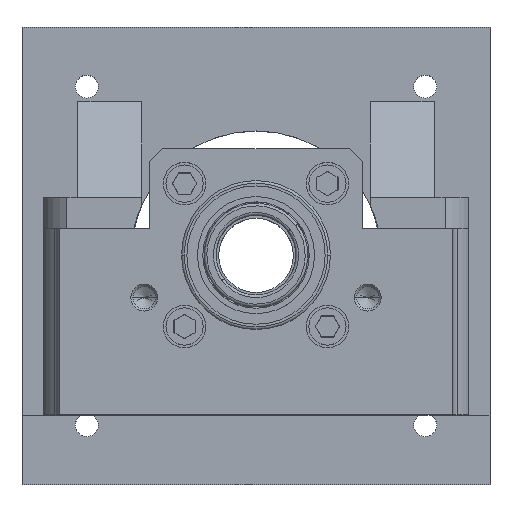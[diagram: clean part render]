
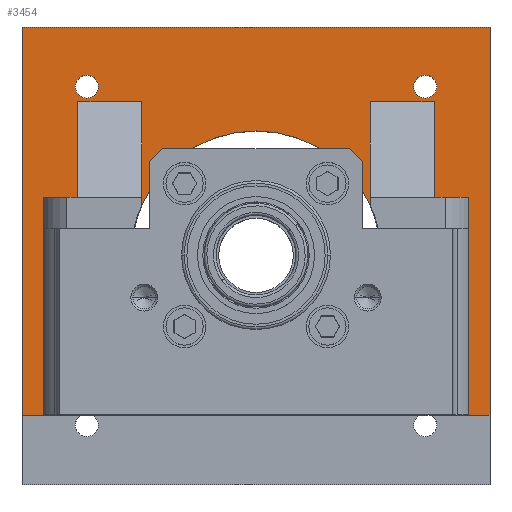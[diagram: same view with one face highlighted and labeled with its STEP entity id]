
A CAD part, top view. The second image highlights one B-rep face of the part: STEP entity #3454.
In plain terms, the highlighted planar face has unit normal (0, 0, 1).
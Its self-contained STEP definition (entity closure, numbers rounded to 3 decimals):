
#91 = VERTEX_POINT ( 'NONE', #8790 ) ;
#135 = ORIENTED_EDGE ( 'NONE', *, *, #3658, .F. ) ;
#561 = DIRECTION ( 'NONE',  ( 0., 0., 1. ) ) ;
#610 = LINE ( 'NONE', #3612, #6043 ) ;
#921 = ORIENTED_EDGE ( 'NONE', *, *, #6507, .F. ) ;
#956 = VECTOR ( 'NONE', #4083, 1000. ) ;
#962 = VECTOR ( 'NONE', #13469, 1000. ) ;
#1132 = VECTOR ( 'NONE', #4212, 1000. ) ;
#1265 = CARTESIAN_POINT ( 'NONE',  ( 44., -30., -90. ) ) ;
#1463 = DIRECTION ( 'NONE',  ( 0., 0., 1. ) ) ;
#1477 = AXIS2_PLACEMENT_3D ( 'NONE', #4458, #12166, #5556 ) ;
#1762 = VERTEX_POINT ( 'NONE', #5112 ) ;
#1806 = CIRCLE ( 'NONE', #12914, 23.5 ) ;
#2066 = ORIENTED_EDGE ( 'NONE', *, *, #11381, .F. ) ;
#2159 = EDGE_CURVE ( 'NONE', #7487, #6514, #5911, .T. ) ;
#2181 = CIRCLE ( 'NONE', #7935, 2.15 ) ;
#2306 = EDGE_LOOP ( 'NONE', ( #8979, #6463 ) ) ;
#2311 = DIRECTION ( 'NONE',  ( 0., 1., 0. ) ) ;
#2552 = CIRCLE ( 'NONE', #1477, 2.15 ) ;
#2601 = EDGE_CURVE ( 'NONE', #9223, #91, #2181, .T. ) ;
#2726 = VECTOR ( 'NONE', #13767, 1000. ) ;
#2805 = ORIENTED_EDGE ( 'NONE', *, *, #13548, .F. ) ;
#2881 = EDGE_CURVE ( 'NONE', #12650, #5969, #5895, .T. ) ;
#2894 = ORIENTED_EDGE ( 'NONE', *, *, #2159, .F. ) ;
#3017 = VECTOR ( 'NONE', #7429, 1000. ) ;
#3078 = CARTESIAN_POINT ( 'NONE',  ( -21.5, 4., -90. ) ) ;
#3155 = CIRCLE ( 'NONE', #10223, 2.15 ) ;
#3344 = VECTOR ( 'NONE', #3539, 1000. ) ;
#3454 = ADVANCED_FACE ( 'NONE', ( #6220, #3663, #12103 ), #4289, .T. ) ;
#3539 = DIRECTION ( 'NONE',  ( -1., 0., 0. ) ) ;
#3556 = CARTESIAN_POINT ( 'NONE',  ( -44., 29., -90. ) ) ;
#3612 = CARTESIAN_POINT ( 'NONE',  ( 21.5, 4., -90. ) ) ;
#3658 = EDGE_CURVE ( 'NONE', #7248, #6267, #3828, .T. ) ;
#3663 = FACE_BOUND ( 'NONE', #2306, .T. ) ;
#3749 = EDGE_CURVE ( 'NONE', #5055, #4499, #610, .T. ) ;
#3828 = LINE ( 'NONE', #1265, #956 ) ;
#3862 = CARTESIAN_POINT ( 'NONE',  ( -31.82, 31.82, -90. ) ) ;
#4004 = LINE ( 'NONE', #6394, #1132 ) ;
#4083 = DIRECTION ( 'NONE',  ( -1., 0., 0. ) ) ;
#4111 = CARTESIAN_POINT ( 'NONE',  ( -44., 29., -90. ) ) ;
#4183 = CARTESIAN_POINT ( 'NONE',  ( -29.67, 31.82, -90. ) ) ;
#4210 = VERTEX_POINT ( 'NONE', #11112 ) ;
#4212 = DIRECTION ( 'NONE',  ( 0., -1., 0. ) ) ;
#4289 = PLANE ( 'NONE',  #5618 ) ;
#4317 = EDGE_LOOP ( 'NONE', ( #6606, #6666, #12965, #7395, #135, #2066, #2894, #921, #9725, #10483, #8849, #12060 ) ) ;
#4458 = CARTESIAN_POINT ( 'NONE',  ( -31.82, 31.82, -90. ) ) ;
#4499 = VERTEX_POINT ( 'NONE', #13635 ) ;
#4543 = ORIENTED_EDGE ( 'NONE', *, *, #11146, .F. ) ;
#4556 = EDGE_CURVE ( 'NONE', #5055, #13965, #1806, .T. ) ;
#4642 = CARTESIAN_POINT ( 'NONE',  ( 44., 43., -90. ) ) ;
#4947 = EDGE_CURVE ( 'NONE', #9710, #12650, #12581, .T. ) ;
#5055 = VERTEX_POINT ( 'NONE', #8883 ) ;
#5059 = DIRECTION ( 'NONE',  ( -1., 0., 0. ) ) ;
#5112 = CARTESIAN_POINT ( 'NONE',  ( 33.5, -30., -90. ) ) ;
#5556 = DIRECTION ( 'NONE',  ( 1., 0., 0. ) ) ;
#5610 = LINE ( 'NONE', #12657, #2726 ) ;
#5618 = AXIS2_PLACEMENT_3D ( 'NONE', #8724, #9723, #9866 ) ;
#5673 = EDGE_CURVE ( 'NONE', #9710, #1762, #14080, .T. ) ;
#5784 = CARTESIAN_POINT ( 'NONE',  ( 31.82, 31.82, -90. ) ) ;
#5895 = LINE ( 'NONE', #4642, #3344 ) ;
#5911 = LINE ( 'NONE', #4111, #3017 ) ;
#5969 = VERTEX_POINT ( 'NONE', #13202 ) ;
#6043 = VECTOR ( 'NONE', #9336, 1000. ) ;
#6220 = FACE_OUTER_BOUND ( 'NONE', #4317, .T. ) ;
#6267 = VERTEX_POINT ( 'NONE', #11547 ) ;
#6286 = EDGE_CURVE ( 'NONE', #5969, #6267, #5610, .T. ) ;
#6394 = CARTESIAN_POINT ( 'NONE',  ( -33.5, 4., -90. ) ) ;
#6463 = ORIENTED_EDGE ( 'NONE', *, *, #2601, .F. ) ;
#6480 = CARTESIAN_POINT ( 'NONE',  ( 0., 0., -90. ) ) ;
#6507 = EDGE_CURVE ( 'NONE', #13965, #7487, #6813, .T. ) ;
#6514 = VERTEX_POINT ( 'NONE', #8574 ) ;
#6606 = ORIENTED_EDGE ( 'NONE', *, *, #5673, .F. ) ;
#6620 = EDGE_CURVE ( 'NONE', #91, #9223, #2552, .T. ) ;
#6666 = ORIENTED_EDGE ( 'NONE', *, *, #4947, .T. ) ;
#6813 = LINE ( 'NONE', #3078, #9417 ) ;
#6885 = DIRECTION ( 'NONE',  ( 1., 0., 0. ) ) ;
#7102 = CARTESIAN_POINT ( 'NONE',  ( 31.82, 31.82, -90. ) ) ;
#7248 = VERTEX_POINT ( 'NONE', #8240 ) ;
#7395 = ORIENTED_EDGE ( 'NONE', *, *, #6286, .T. ) ;
#7429 = DIRECTION ( 'NONE',  ( -1., 0., 0. ) ) ;
#7487 = VERTEX_POINT ( 'NONE', #14187 ) ;
#7935 = AXIS2_PLACEMENT_3D ( 'NONE', #3862, #11563, #9351 ) ;
#8234 = DIRECTION ( 'NONE',  ( 1., 0., 0. ) ) ;
#8240 = CARTESIAN_POINT ( 'NONE',  ( -33.5, -30., -90. ) ) ;
#8243 = VECTOR ( 'NONE', #5059, 1000. ) ;
#8270 = CIRCLE ( 'NONE', #9881, 2.15 ) ;
#8339 = VERTEX_POINT ( 'NONE', #9064 ) ;
#8379 = CARTESIAN_POINT ( 'NONE',  ( 44., -30., -90. ) ) ;
#8574 = CARTESIAN_POINT ( 'NONE',  ( -33.5, 29., -90. ) ) ;
#8583 = CARTESIAN_POINT ( 'NONE',  ( 33.5, 29., -90. ) ) ;
#8724 = CARTESIAN_POINT ( 'NONE',  ( -44., 43., -90. ) ) ;
#8790 = CARTESIAN_POINT ( 'NONE',  ( -33.97, 31.82, -90. ) ) ;
#8849 = ORIENTED_EDGE ( 'NONE', *, *, #11039, .F. ) ;
#8883 = CARTESIAN_POINT ( 'NONE',  ( 21.5, 9.487, -90. ) ) ;
#8970 = DIRECTION ( 'NONE',  ( 1., 0., 0. ) ) ;
#8979 = ORIENTED_EDGE ( 'NONE', *, *, #6620, .F. ) ;
#9064 = CARTESIAN_POINT ( 'NONE',  ( 29.67, 31.82, -90. ) ) ;
#9208 = VERTEX_POINT ( 'NONE', #8583 ) ;
#9223 = VERTEX_POINT ( 'NONE', #4183 ) ;
#9336 = DIRECTION ( 'NONE',  ( 0., 1., 0. ) ) ;
#9351 = DIRECTION ( 'NONE',  ( 1., 0., 0. ) ) ;
#9417 = VECTOR ( 'NONE', #10782, 1000. ) ;
#9657 = VECTOR ( 'NONE', #2311, 1000. ) ;
#9700 = VECTOR ( 'NONE', #11255, 1000. ) ;
#9710 = VERTEX_POINT ( 'NONE', #8379 ) ;
#9723 = DIRECTION ( 'NONE',  ( 0., 0., 1. ) ) ;
#9725 = ORIENTED_EDGE ( 'NONE', *, *, #4556, .F. ) ;
#9866 = DIRECTION ( 'NONE',  ( 1., 0., 0. ) ) ;
#9881 = AXIS2_PLACEMENT_3D ( 'NONE', #5784, #13513, #6885 ) ;
#9907 = CARTESIAN_POINT ( 'NONE',  ( 44., -30., -90. ) ) ;
#10046 = LINE ( 'NONE', #10149, #962 ) ;
#10149 = CARTESIAN_POINT ( 'NONE',  ( 33.5, 4., -90. ) ) ;
#10223 = AXIS2_PLACEMENT_3D ( 'NONE', #7102, #561, #8234 ) ;
#10483 = ORIENTED_EDGE ( 'NONE', *, *, #3749, .T. ) ;
#10782 = DIRECTION ( 'NONE',  ( 0., 1., 0. ) ) ;
#10879 = CARTESIAN_POINT ( 'NONE',  ( 44., 43., -90. ) ) ;
#10898 = CARTESIAN_POINT ( 'NONE',  ( -21.5, 9.487, -90. ) ) ;
#11039 = EDGE_CURVE ( 'NONE', #9208, #4499, #12616, .T. ) ;
#11054 = EDGE_CURVE ( 'NONE', #9208, #1762, #10046, .T. ) ;
#11112 = CARTESIAN_POINT ( 'NONE',  ( 33.97, 31.82, -90. ) ) ;
#11146 = EDGE_CURVE ( 'NONE', #8339, #4210, #3155, .T. ) ;
#11255 = DIRECTION ( 'NONE',  ( -1., 0., 0. ) ) ;
#11381 = EDGE_CURVE ( 'NONE', #6514, #7248, #4004, .T. ) ;
#11547 = CARTESIAN_POINT ( 'NONE',  ( -44., -30., -90. ) ) ;
#11563 = DIRECTION ( 'NONE',  ( 0., 0., 1. ) ) ;
#12060 = ORIENTED_EDGE ( 'NONE', *, *, #11054, .T. ) ;
#12103 = FACE_BOUND ( 'NONE', #13263, .T. ) ;
#12166 = DIRECTION ( 'NONE',  ( 0., 0., 1. ) ) ;
#12269 = CARTESIAN_POINT ( 'NONE',  ( 44., -43., -90. ) ) ;
#12581 = LINE ( 'NONE', #12269, #9657 ) ;
#12616 = LINE ( 'NONE', #3556, #9700 ) ;
#12650 = VERTEX_POINT ( 'NONE', #10879 ) ;
#12657 = CARTESIAN_POINT ( 'NONE',  ( -44., -43., -90. ) ) ;
#12914 = AXIS2_PLACEMENT_3D ( 'NONE', #6480, #1463, #8970 ) ;
#12965 = ORIENTED_EDGE ( 'NONE', *, *, #2881, .T. ) ;
#13202 = CARTESIAN_POINT ( 'NONE',  ( -44., 43., -90. ) ) ;
#13263 = EDGE_LOOP ( 'NONE', ( #4543, #2805 ) ) ;
#13469 = DIRECTION ( 'NONE',  ( 0., -1., 0. ) ) ;
#13513 = DIRECTION ( 'NONE',  ( 0., 0., 1. ) ) ;
#13548 = EDGE_CURVE ( 'NONE', #4210, #8339, #8270, .T. ) ;
#13635 = CARTESIAN_POINT ( 'NONE',  ( 21.5, 29., -90. ) ) ;
#13767 = DIRECTION ( 'NONE',  ( 0., -1., 0. ) ) ;
#13965 = VERTEX_POINT ( 'NONE', #10898 ) ;
#14080 = LINE ( 'NONE', #9907, #8243 ) ;
#14187 = CARTESIAN_POINT ( 'NONE',  ( -21.5, 29., -90. ) ) ;
